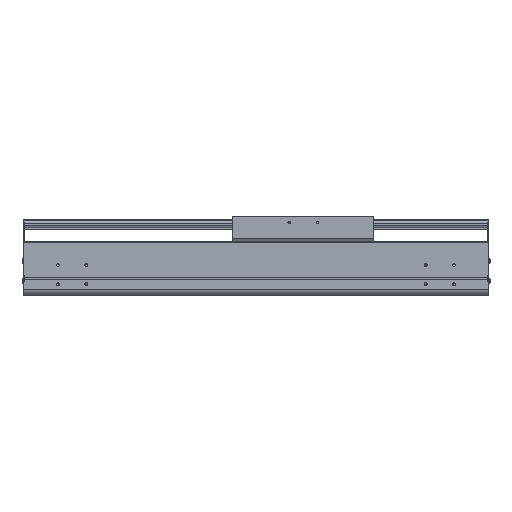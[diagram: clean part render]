
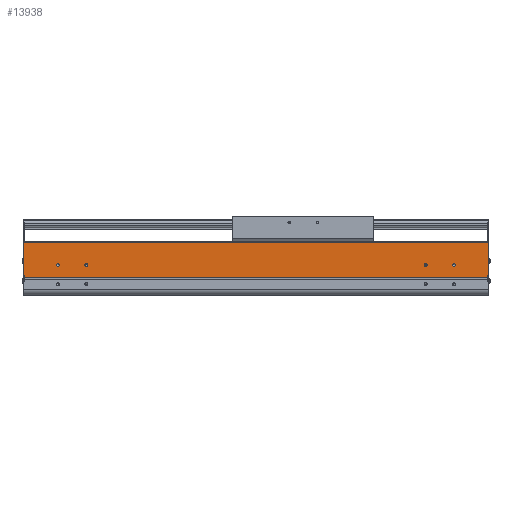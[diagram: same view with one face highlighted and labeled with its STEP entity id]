
A CAD part, top view. The second image highlights one B-rep face of the part: STEP entity #13938.
In plain terms, the highlighted planar face has unit normal (0, 0, 1).
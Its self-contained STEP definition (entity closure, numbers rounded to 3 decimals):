
#528=DIRECTION('',(0.,-1.,0.));
#529=VECTOR('',#528,2.55);
#530=CARTESIAN_POINT('',(0.,34.65,107.));
#531=LINE('',#530,#529);
#2181=DIRECTION('',(1.,0.,0.));
#2182=VECTOR('',#2181,2.);
#2183=CARTESIAN_POINT('',(0.,34.65,107.));
#2184=LINE('',#2183,#2182);
#2189=CARTESIAN_POINT('',(-59.5,54.,107.));
#2190=DIRECTION('',(0.,0.,-1.));
#2191=DIRECTION('',(1.,0.,0.));
#2192=AXIS2_PLACEMENT_3D('',#2189,#2190,#2191);
#2194=CARTESIAN_POINT('',(-59.5,54.,107.));
#2195=DIRECTION('',(0.,0.,-1.));
#2196=DIRECTION('',(-1.,0.,0.));
#2197=AXIS2_PLACEMENT_3D('',#2194,#2195,#2196);
#2199=CARTESIAN_POINT('',(-109.5,54.,107.));
#2200=DIRECTION('',(0.,0.,-1.));
#2201=DIRECTION('',(1.,0.,0.));
#2202=AXIS2_PLACEMENT_3D('',#2199,#2200,#2201);
#2204=CARTESIAN_POINT('',(-109.5,54.,107.));
#2205=DIRECTION('',(0.,0.,-1.));
#2206=DIRECTION('',(-1.,0.,0.));
#2207=AXIS2_PLACEMENT_3D('',#2204,#2205,#2206);
#2209=CARTESIAN_POINT('',(-759.5,54.,107.));
#2210=DIRECTION('',(0.,0.,-1.));
#2211=DIRECTION('',(1.,0.,0.));
#2212=AXIS2_PLACEMENT_3D('',#2209,#2210,#2211);
#2214=CARTESIAN_POINT('',(-759.5,54.,107.));
#2215=DIRECTION('',(0.,0.,-1.));
#2216=DIRECTION('',(-1.,0.,0.));
#2217=AXIS2_PLACEMENT_3D('',#2214,#2215,#2216);
#2219=CARTESIAN_POINT('',(-709.5,54.,107.));
#2220=DIRECTION('',(0.,0.,-1.));
#2221=DIRECTION('',(1.,0.,0.));
#2222=AXIS2_PLACEMENT_3D('',#2219,#2220,#2221);
#2224=CARTESIAN_POINT('',(-709.5,54.,107.));
#2225=DIRECTION('',(0.,0.,-1.));
#2226=DIRECTION('',(-1.,0.,0.));
#2227=AXIS2_PLACEMENT_3D('',#2224,#2225,#2226);
#2229=DIRECTION('',(0.,-1.,0.));
#2230=VECTOR('',#2229,2.55);
#2231=CARTESIAN_POINT('',(-819.,34.65,107.));
#2232=LINE('',#2231,#2230);
#2233=DIRECTION('',(0.,-1.,0.));
#2234=VECTOR('',#2233,58.85);
#2235=CARTESIAN_POINT('',(-821.,93.5,107.));
#2236=LINE('',#2235,#2234);
#2237=DIRECTION('',(0.,1.,0.));
#2238=VECTOR('',#2237,58.85);
#2239=CARTESIAN_POINT('',(2.,34.65,107.));
#2240=LINE('',#2239,#2238);
#2241=DIRECTION('',(1.,0.,0.));
#2242=VECTOR('',#2241,819.);
#2243=CARTESIAN_POINT('',(-819.,32.1,107.));
#2244=LINE('',#2243,#2242);
#2353=DIRECTION('',(1.,0.,0.));
#2354=VECTOR('',#2353,2.);
#2355=CARTESIAN_POINT('',(-821.,34.65,107.));
#2356=LINE('',#2355,#2354);
#2365=DIRECTION('',(-1.,0.,0.));
#2366=VECTOR('',#2365,823.);
#2367=CARTESIAN_POINT('',(2.,93.5,107.));
#2368=LINE('',#2367,#2366);
#8933=CARTESIAN_POINT('',(-821.,34.65,107.));
#8934=VERTEX_POINT('',#8933);
#8935=CARTESIAN_POINT('',(-821.,93.5,107.));
#8936=VERTEX_POINT('',#8935);
#9165=CARTESIAN_POINT('',(-819.,32.1,107.));
#9166=VERTEX_POINT('',#9165);
#9417=CARTESIAN_POINT('',(0.,32.1,107.));
#9418=VERTEX_POINT('',#9417);
#9419=CARTESIAN_POINT('',(-57.,54.,107.));
#9420=CARTESIAN_POINT('',(-62.,54.,107.));
#9421=VERTEX_POINT('',#9419);
#9422=VERTEX_POINT('',#9420);
#9423=CARTESIAN_POINT('',(-107.,54.,107.));
#9424=CARTESIAN_POINT('',(-112.,54.,107.));
#9425=VERTEX_POINT('',#9423);
#9426=VERTEX_POINT('',#9424);
#9427=CARTESIAN_POINT('',(-757.,54.,107.));
#9428=CARTESIAN_POINT('',(-762.,54.,107.));
#9429=VERTEX_POINT('',#9427);
#9430=VERTEX_POINT('',#9428);
#9431=CARTESIAN_POINT('',(-707.,54.,107.));
#9432=CARTESIAN_POINT('',(-712.,54.,107.));
#9433=VERTEX_POINT('',#9431);
#9434=VERTEX_POINT('',#9432);
#10046=CARTESIAN_POINT('',(2.,34.65,107.));
#10047=VERTEX_POINT('',#10046);
#10048=CARTESIAN_POINT('',(2.,93.5,107.));
#10049=VERTEX_POINT('',#10048);
#10500=CARTESIAN_POINT('',(0.,34.65,107.));
#10501=VERTEX_POINT('',#10500);
#10580=CARTESIAN_POINT('',(-819.,34.65,107.));
#10581=VERTEX_POINT('',#10580);
#13896=CARTESIAN_POINT('',(-409.5,62.8,107.));
#13897=DIRECTION('',(0.,0.,1.));
#13898=DIRECTION('',(0.,-1.,0.));
#13899=AXIS2_PLACEMENT_3D('',#13896,#13897,#13898);
#13900=PLANE('',#13899);
#13901=ORIENTED_EDGE('',*,*,#11397,.F.);
#13903=ORIENTED_EDGE('',*,*,#13902,.F.);
#13904=ORIENTED_EDGE('',*,*,#12494,.F.);
#13906=ORIENTED_EDGE('',*,*,#13905,.F.);
#13907=ORIENTED_EDGE('',*,*,#13694,.F.);
#13908=ORIENTED_EDGE('',*,*,#13889,.F.);
#13909=ORIENTED_EDGE('',*,*,#12012,.T.);
#13911=ORIENTED_EDGE('',*,*,#13910,.F.);
#13912=EDGE_LOOP('',(#13901,#13903,#13904,#13906,#13907,#13908,#13909,#13911));
#13913=FACE_OUTER_BOUND('',#13912,.F.);
#13915=ORIENTED_EDGE('',*,*,#13914,.F.);
#13917=ORIENTED_EDGE('',*,*,#13916,.F.);
#13918=EDGE_LOOP('',(#13915,#13917));
#13919=FACE_BOUND('',#13918,.F.);
#13921=ORIENTED_EDGE('',*,*,#13920,.F.);
#13923=ORIENTED_EDGE('',*,*,#13922,.F.);
#13924=EDGE_LOOP('',(#13921,#13923));
#13925=FACE_BOUND('',#13924,.F.);
#13927=ORIENTED_EDGE('',*,*,#13926,.F.);
#13929=ORIENTED_EDGE('',*,*,#13928,.F.);
#13930=EDGE_LOOP('',(#13927,#13929));
#13931=FACE_BOUND('',#13930,.F.);
#13933=ORIENTED_EDGE('',*,*,#13932,.F.);
#13935=ORIENTED_EDGE('',*,*,#13934,.F.);
#13936=EDGE_LOOP('',(#13933,#13935));
#13937=FACE_BOUND('',#13936,.F.);
#13938=ADVANCED_FACE('',(#13913,#13919,#13925,#13931,#13937),#13900,.T.);
#2193=CIRCLE('',#2192,2.5);
#2198=CIRCLE('',#2197,2.5);
#2203=CIRCLE('',#2202,2.5);
#2208=CIRCLE('',#2207,2.5);
#2213=CIRCLE('',#2212,2.5);
#2218=CIRCLE('',#2217,2.5);
#2223=CIRCLE('',#2222,2.5);
#2228=CIRCLE('',#2227,2.5);
#11397=EDGE_CURVE('',#10581,#9166,#2232,.T.);
#12012=EDGE_CURVE('',#10501,#9418,#531,.T.);
#12494=EDGE_CURVE('',#8936,#8934,#2236,.T.);
#13694=EDGE_CURVE('',#10047,#10049,#2240,.T.);
#13889=EDGE_CURVE('',#10501,#10047,#2184,.T.);
#13902=EDGE_CURVE('',#8934,#10581,#2356,.T.);
#13905=EDGE_CURVE('',#10049,#8936,#2368,.T.);
#13910=EDGE_CURVE('',#9166,#9418,#2244,.T.);
#13914=EDGE_CURVE('',#9425,#9426,#2203,.T.);
#13916=EDGE_CURVE('',#9426,#9425,#2208,.T.);
#13920=EDGE_CURVE('',#9429,#9430,#2213,.T.);
#13922=EDGE_CURVE('',#9430,#9429,#2218,.T.);
#13926=EDGE_CURVE('',#9433,#9434,#2223,.T.);
#13928=EDGE_CURVE('',#9434,#9433,#2228,.T.);
#13932=EDGE_CURVE('',#9421,#9422,#2193,.T.);
#13934=EDGE_CURVE('',#9422,#9421,#2198,.T.);
